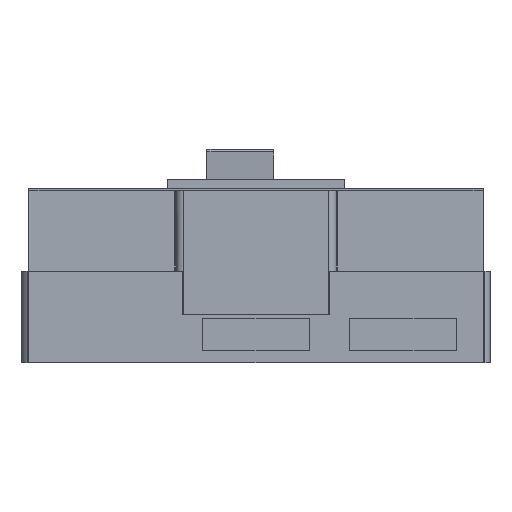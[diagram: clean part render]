
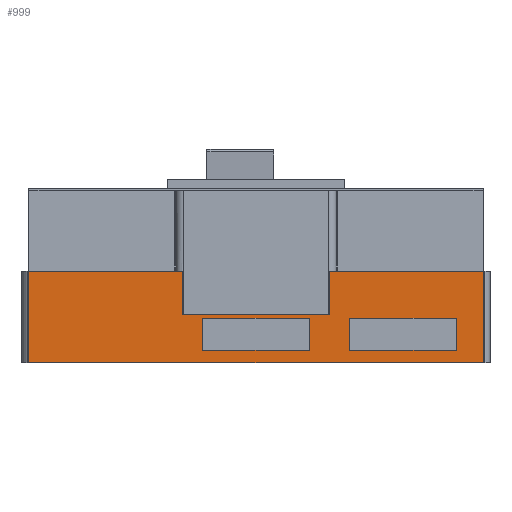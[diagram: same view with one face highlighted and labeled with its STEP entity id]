
A CAD part, front view. The second image highlights one B-rep face of the part: STEP entity #999.
In plain terms, the highlighted planar face has unit normal (0, -1, 0).
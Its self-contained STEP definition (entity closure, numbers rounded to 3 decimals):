
#131 = EDGE_CURVE ( 'NONE', #939, #2413, #2142, .T. ) ;
#142 = LINE ( 'NONE', #4566, #4757 ) ;
#258 = CARTESIAN_POINT ( 'NONE',  ( 162.5, 0., 32. ) ) ;
#290 = CARTESIAN_POINT ( 'NONE',  ( 300., 0., 12. ) ) ;
#342 = VECTOR ( 'NONE', #2201, 1000. ) ;
#349 = LINE ( 'NONE', #4650, #1132 ) ;
#409 = VECTOR ( 'NONE', #3127, 1000. ) ;
#410 = DIRECTION ( 'NONE',  ( 0., 0., 1. ) ) ;
#417 = CARTESIAN_POINT ( 'NONE',  ( 262.5, 0., 12. ) ) ;
#441 = EDGE_CURVE ( 'NONE', #2413, #2415, #3146, .T. ) ;
#450 = CARTESIAN_POINT ( 'NONE',  ( 142.839, 0., 86. ) ) ;
#491 = CARTESIAN_POINT ( 'NONE',  ( 300., 0., 12. ) ) ;
#515 = FACE_BOUND ( 'NONE', #2870, .T. ) ;
#535 = CARTESIAN_POINT ( 'NONE',  ( 262.5, 0., 12. ) ) ;
#551 = AXIS2_PLACEMENT_3D ( 'NONE', #4386, #4382, #4622 ) ;
#554 = DIRECTION ( 'NONE',  ( 0., 0., 1. ) ) ;
#569 = LINE ( 'NONE', #2013, #342 ) ;
#583 = CARTESIAN_POINT ( 'NONE',  ( 281.3, 0., 45. ) ) ;
#601 = CARTESIAN_POINT ( 'NONE',  ( 0., 0., 0. ) ) ;
#613 = EDGE_CURVE ( 'NONE', #3126, #3070, #4219, .T. ) ;
#618 = DIRECTION ( 'NONE',  ( 0., 0., 1. ) ) ;
#705 = ORIENTED_EDGE ( 'NONE', *, *, #3046, .T. ) ;
#739 = VERTEX_POINT ( 'NONE', #258 ) ;
#787 = CARTESIAN_POINT ( 'NONE',  ( 400., 0., 32. ) ) ;
#806 = VECTOR ( 'NONE', #1100, 1000. ) ;
#838 = ORIENTED_EDGE ( 'NONE', *, *, #4055, .F. ) ;
#859 = LINE ( 'NONE', #4776, #806 ) ;
#867 = CARTESIAN_POINT ( 'NONE',  ( 400., 0., 12. ) ) ;
#883 = ORIENTED_EDGE ( 'NONE', *, *, #613, .T. ) ;
#909 = CARTESIAN_POINT ( 'NONE',  ( 300., 0., 32. ) ) ;
#939 = VERTEX_POINT ( 'NONE', #3148 ) ;
#999 = ADVANCED_FACE ( 'NONE', ( #2628, #515, #3203 ), #4039, .F. ) ;
#1029 = EDGE_CURVE ( 'NONE', #2344, #3719, #3083, .T. ) ;
#1075 = CARTESIAN_POINT ( 'NONE',  ( 425., 0., 86. ) ) ;
#1090 = DIRECTION ( 'NONE',  ( 0., 0., -1. ) ) ;
#1093 = VERTEX_POINT ( 'NONE', #1286 ) ;
#1100 = DIRECTION ( 'NONE',  ( 1., 0., 0. ) ) ;
#1106 = DIRECTION ( 'NONE',  ( 1., 0., 0. ) ) ;
#1132 = VECTOR ( 'NONE', #4561, 1000. ) ;
#1169 = DIRECTION ( 'NONE',  ( -1., 0., 0. ) ) ;
#1170 = EDGE_CURVE ( 'NONE', #3531, #2344, #2729, .T. ) ;
#1174 = ORIENTED_EDGE ( 'NONE', *, *, #2644, .F. ) ;
#1179 = LINE ( 'NONE', #3521, #1396 ) ;
#1209 = CARTESIAN_POINT ( 'NONE',  ( 0., 0., 0. ) ) ;
#1244 = VECTOR ( 'NONE', #2419, 1000. ) ;
#1286 = CARTESIAN_POINT ( 'NONE',  ( 425., 0., 86. ) ) ;
#1298 = DIRECTION ( 'NONE',  ( 0., 0., 1. ) ) ;
#1360 = VECTOR ( 'NONE', #4327, 1000. ) ;
#1373 = EDGE_CURVE ( 'NONE', #939, #739, #569, .T. ) ;
#1396 = VECTOR ( 'NONE', #3535, 1000. ) ;
#1475 = VECTOR ( 'NONE', #1169, 1000. ) ;
#1534 = VERTEX_POINT ( 'NONE', #787 ) ;
#1591 = LINE ( 'NONE', #4347, #1360 ) ;
#1706 = CARTESIAN_POINT ( 'NONE',  ( 0., 0., 315. ) ) ;
#1919 = VERTEX_POINT ( 'NONE', #491 ) ;
#1962 = VECTOR ( 'NONE', #2820, 1000. ) ;
#1971 = CARTESIAN_POINT ( 'NONE',  ( 282.161, 0., 86. ) ) ;
#2013 = CARTESIAN_POINT ( 'NONE',  ( 162.5, 0., 12. ) ) ;
#2142 = LINE ( 'NONE', #535, #4098 ) ;
#2191 = CARTESIAN_POINT ( 'NONE',  ( 281.3, 0., 45. ) ) ;
#2196 = LINE ( 'NONE', #2460, #1962 ) ;
#2201 = DIRECTION ( 'NONE',  ( 0., 0., 1. ) ) ;
#2202 = ORIENTED_EDGE ( 'NONE', *, *, #3350, .F. ) ;
#2306 = ORIENTED_EDGE ( 'NONE', *, *, #4001, .T. ) ;
#2332 = EDGE_CURVE ( 'NONE', #1919, #3599, #3841, .T. ) ;
#2344 = VERTEX_POINT ( 'NONE', #1209 ) ;
#2350 = LINE ( 'NONE', #2670, #1244 ) ;
#2358 = ORIENTED_EDGE ( 'NONE', *, *, #2332, .F. ) ;
#2413 = VERTEX_POINT ( 'NONE', #2553 ) ;
#2415 = VERTEX_POINT ( 'NONE', #2555 ) ;
#2419 = DIRECTION ( 'NONE',  ( 0., 0., -1. ) ) ;
#2460 = CARTESIAN_POINT ( 'NONE',  ( 425., 0., 86. ) ) ;
#2553 = CARTESIAN_POINT ( 'NONE',  ( 262.5, 0., 12. ) ) ;
#2555 = CARTESIAN_POINT ( 'NONE',  ( 262.5, 0., 32. ) ) ;
#2621 = ORIENTED_EDGE ( 'NONE', *, *, #3550, .T. ) ;
#2628 = FACE_OUTER_BOUND ( 'NONE', #2921, .T. ) ;
#2634 = ORIENTED_EDGE ( 'NONE', *, *, #1170, .T. ) ;
#2644 = EDGE_CURVE ( 'NONE', #1093, #3719, #2350, .T. ) ;
#2670 = CARTESIAN_POINT ( 'NONE',  ( 425., 0., 315. ) ) ;
#2675 = VERTEX_POINT ( 'NONE', #909 ) ;
#2704 = CARTESIAN_POINT ( 'NONE',  ( 425., 0., 0. ) ) ;
#2705 = ORIENTED_EDGE ( 'NONE', *, *, #4186, .T. ) ;
#2729 = LINE ( 'NONE', #1706, #2964 ) ;
#2795 = CARTESIAN_POINT ( 'NONE',  ( 281.3, 0., 86. ) ) ;
#2820 = DIRECTION ( 'NONE',  ( -1., 0., 0. ) ) ;
#2870 = EDGE_LOOP ( 'NONE', ( #4427, #3600, #3363, #4020 ) ) ;
#2921 = EDGE_LOOP ( 'NONE', ( #2621, #2634, #4330, #1174, #2306, #4422, #838, #2202, #883, #3226 ) ) ;
#2964 = VECTOR ( 'NONE', #1090, 1000. ) ;
#3046 = EDGE_CURVE ( 'NONE', #1919, #2675, #3960, .T. ) ;
#3062 = CARTESIAN_POINT ( 'NONE',  ( 143.7, 0., 45. ) ) ;
#3070 = VERTEX_POINT ( 'NONE', #3663 ) ;
#3083 = LINE ( 'NONE', #601, #3089 ) ;
#3089 = VECTOR ( 'NONE', #4637, 1000. ) ;
#3118 = DIRECTION ( 'NONE',  ( 1., 0., 0. ) ) ;
#3126 = VERTEX_POINT ( 'NONE', #4396 ) ;
#3127 = DIRECTION ( 'NONE',  ( 0., 0., 1. ) ) ;
#3146 = LINE ( 'NONE', #417, #3831 ) ;
#3148 = CARTESIAN_POINT ( 'NONE',  ( 162.5, 0., 12. ) ) ;
#3202 = VERTEX_POINT ( 'NONE', #450 ) ;
#3203 = FACE_BOUND ( 'NONE', #4032, .T. ) ;
#3226 = ORIENTED_EDGE ( 'NONE', *, *, #4635, .T. ) ;
#3321 = CARTESIAN_POINT ( 'NONE',  ( 400., 0., 12. ) ) ;
#3350 = EDGE_CURVE ( 'NONE', #3126, #3786, #349, .T. ) ;
#3363 = ORIENTED_EDGE ( 'NONE', *, *, #1373, .T. ) ;
#3424 = LINE ( 'NONE', #583, #4413 ) ;
#3521 = CARTESIAN_POINT ( 'NONE',  ( 425., 0., 86. ) ) ;
#3531 = VERTEX_POINT ( 'NONE', #3597 ) ;
#3535 = DIRECTION ( 'NONE',  ( -1., 0., 0. ) ) ;
#3550 = EDGE_CURVE ( 'NONE', #3202, #3531, #1179, .T. ) ;
#3597 = CARTESIAN_POINT ( 'NONE',  ( 0., 0., 86. ) ) ;
#3599 = VERTEX_POINT ( 'NONE', #3321 ) ;
#3600 = ORIENTED_EDGE ( 'NONE', *, *, #131, .F. ) ;
#3617 = VECTOR ( 'NONE', #1106, 1000. ) ;
#3663 = CARTESIAN_POINT ( 'NONE',  ( 143.7, 0., 86. ) ) ;
#3690 = VERTEX_POINT ( 'NONE', #2795 ) ;
#3719 = VERTEX_POINT ( 'NONE', #2704 ) ;
#3786 = VERTEX_POINT ( 'NONE', #2191 ) ;
#3831 = VECTOR ( 'NONE', #554, 1000. ) ;
#3841 = LINE ( 'NONE', #4038, #3617 ) ;
#3960 = LINE ( 'NONE', #290, #4423 ) ;
#4001 = EDGE_CURVE ( 'NONE', #1093, #4315, #4505, .T. ) ;
#4020 = ORIENTED_EDGE ( 'NONE', *, *, #4705, .T. ) ;
#4032 = EDGE_LOOP ( 'NONE', ( #4248, #2358, #705, #2705 ) ) ;
#4038 = CARTESIAN_POINT ( 'NONE',  ( 400., 0., 12. ) ) ;
#4039 = PLANE ( 'NONE',  #551 ) ;
#4055 = EDGE_CURVE ( 'NONE', #3786, #3690, #3424, .T. ) ;
#4098 = VECTOR ( 'NONE', #3118, 1000. ) ;
#4186 = EDGE_CURVE ( 'NONE', #2675, #1534, #142, .T. ) ;
#4219 = LINE ( 'NONE', #3062, #409 ) ;
#4248 = ORIENTED_EDGE ( 'NONE', *, *, #4334, .F. ) ;
#4315 = VERTEX_POINT ( 'NONE', #1971 ) ;
#4327 = DIRECTION ( 'NONE',  ( 1., 0., 0. ) ) ;
#4330 = ORIENTED_EDGE ( 'NONE', *, *, #1029, .T. ) ;
#4334 = EDGE_CURVE ( 'NONE', #3599, #1534, #4406, .T. ) ;
#4347 = CARTESIAN_POINT ( 'NONE',  ( 262.5, 0., 32. ) ) ;
#4382 = DIRECTION ( 'NONE',  ( 0., 1., 0. ) ) ;
#4386 = CARTESIAN_POINT ( 'NONE',  ( 0., 0., 315. ) ) ;
#4396 = CARTESIAN_POINT ( 'NONE',  ( 143.7, 0., 45. ) ) ;
#4406 = LINE ( 'NONE', #867, #4446 ) ;
#4413 = VECTOR ( 'NONE', #618, 1000. ) ;
#4422 = ORIENTED_EDGE ( 'NONE', *, *, #4790, .F. ) ;
#4423 = VECTOR ( 'NONE', #410, 1000. ) ;
#4427 = ORIENTED_EDGE ( 'NONE', *, *, #441, .F. ) ;
#4446 = VECTOR ( 'NONE', #1298, 1000. ) ;
#4497 = DIRECTION ( 'NONE',  ( 1., 0., 0. ) ) ;
#4505 = LINE ( 'NONE', #1075, #1475 ) ;
#4561 = DIRECTION ( 'NONE',  ( 1., 0., 0. ) ) ;
#4566 = CARTESIAN_POINT ( 'NONE',  ( 400., 0., 32. ) ) ;
#4622 = DIRECTION ( 'NONE',  ( 0., 0., 1. ) ) ;
#4635 = EDGE_CURVE ( 'NONE', #3070, #3202, #2196, .T. ) ;
#4637 = DIRECTION ( 'NONE',  ( 1., 0., 0. ) ) ;
#4650 = CARTESIAN_POINT ( 'NONE',  ( 143.7, 0., 45. ) ) ;
#4705 = EDGE_CURVE ( 'NONE', #739, #2415, #1591, .T. ) ;
#4757 = VECTOR ( 'NONE', #4497, 1000. ) ;
#4776 = CARTESIAN_POINT ( 'NONE',  ( 0., 0., 86. ) ) ;
#4790 = EDGE_CURVE ( 'NONE', #3690, #4315, #859, .T. ) ;
